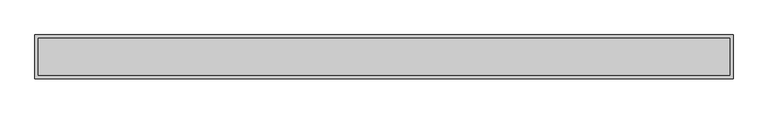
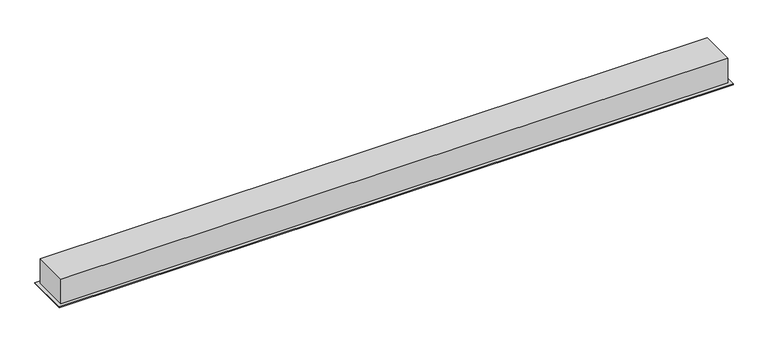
"""IFC4 building model written with IfcOpenShell, lengths in millimetres: light fixture geometry, GENILED_Светильник светодиодный_Trade Linear Standart Встраиваемый : Встраиваемый Trade Linear Standart 1472x65x60 60Вт 90Ra Deep Опал Черный."""

from ifc_helpers import new_model, si_unit, origin, place, context, project, spatial, faceted_brep, source, transform, mapped, element, save


def light_fixture_b1754167(model_context):
    return source(origin(), model_context, "Body", "Brep", [
        faceted_brep([(746.0, 40.0, 60.0), (-746.0, 40.0, 60.0), (-746.0, -40.0, 60.0), (746.0, -40.0, 60.0), (753.5, 47.5, 0.0), (753.5, -47.5, 0.0), (-753.5, -47.5, 0.0), (-753.5, 47.5, 0.0), (746.0, 40.0, 2.0), (-746.0, 40.0, 2.0), (-746.0, 32.5, 2.0), (-746.0, -32.5, 2.0), (-746.0, -40.0, 2.0), (746.0, -40.0, 2.0), (746.0, -32.5, 2.0), (746.0, 32.5, 2.0), (753.5, 47.5, 2.0), (-753.5, 47.5, 2.0), (-753.5, -47.5, 2.0), (753.5, -47.5, 2.0)], [[[0, 1, 2, 3]], [[4, 5, 6, 7]], [[1, 0, 8, 9]], [[2, 1, 9, 10, 11, 12]], [[3, 2, 12, 13]], [[0, 3, 13, 14, 15, 8]], [[16, 17, 18, 19], [9, 8, 15, 14, 13, 12, 11, 10]], [[17, 16, 4, 7]], [[18, 17, 7, 6]], [[19, 18, 6, 5]], [[16, 19, 5, 4]]]),
    ])


if __name__ == "__main__":
    model = new_model("IFC4")
    model_context = context("Model", 3, world=origin())
    ifc_project = project(units=[si_unit("LENGTHUNIT", "METRE", prefix="MILLI")], contexts=[model_context])
    site = spatial("IfcSite", under=ifc_project)
    building = spatial("IfcBuilding", under=site)
    placement = place(None, origin())
    light_fixture_shape = light_fixture_b1754167(model_context)
    element("IfcLightFixture", 1, ObjectType="GENILED_Светильник светодиодный_Trade Linear Standart Встраиваемый : Встраиваемый Trade Linear Standart 1472x65x60 60Вт 90Ra Deep Опал Черный", at=placement, inside=building, context=model_context, shape_type="MappedRepresentation", body=[
        mapped(light_fixture_shape, transform((0.0, 0.0, 0.0), x_axis=(1.0, 0.0, 0.0), y_axis=(0.0, 1.0, 0.0), z_axis=(0.0, 0.0, 1.0))),
    ])
    save(model, "model.ifc")
